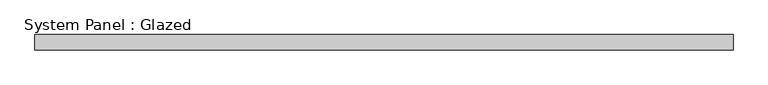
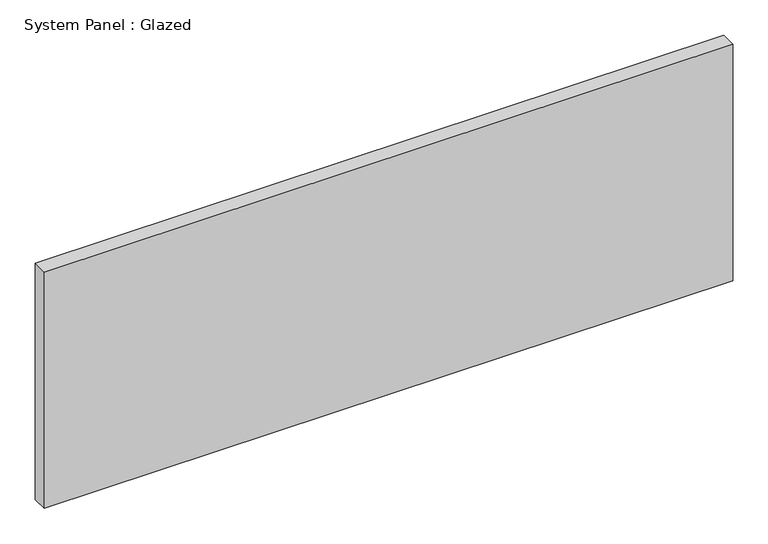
"""IFC4 building model written with IfcOpenShell, lengths in millimetres: plate geometry, System Panel : Glazed."""

from ifc_helpers import new_model, si_unit, origin, origin_with_axes, place, context, project, spatial, polyline, outline, extrude, source, transform, mapped, element, save


def system_panel_glazed_fa8e781c(model_context):
    return source(origin(), model_context, "Body", "SweptSolid", [
        extrude(outline(polyline([(560.9875, -49.5), (-560.9875, -49.5), (-560.9875, -24.5), (560.9875, -24.5), (560.9875, -49.5)])), origin_with_axes(), (0.0, 0.0, 1.0), 407.2),
    ])


if __name__ == "__main__":
    model = new_model("IFC4")
    model_context = context("Model", 3, world=origin())
    ifc_project = project(units=[si_unit("LENGTHUNIT", "METRE", prefix="MILLI")], contexts=[model_context])
    site = spatial("IfcSite", under=ifc_project)
    building = spatial("IfcBuilding", under=site)
    placement = place(None, origin())
    system_panel_glazed_shape = system_panel_glazed_fa8e781c(model_context)
    element("IfcPlate", 1, ObjectType="System Panel : Glazed", at=placement, inside=building, context=model_context, shape_type="MappedRepresentation", body=[
        mapped(system_panel_glazed_shape, transform((0.0, 0.0, 0.0), x_axis=(1.0, 0.0, 0.0), y_axis=(0.0, 1.0, 0.0), z_axis=(0.0, 0.0, 1.0))),
    ])
    save(model, "model.ifc")
